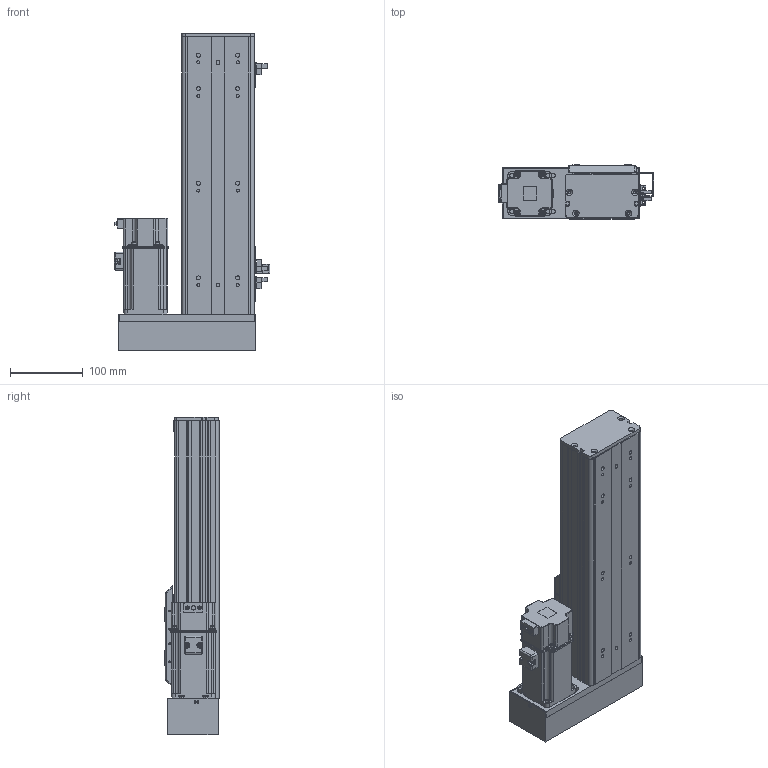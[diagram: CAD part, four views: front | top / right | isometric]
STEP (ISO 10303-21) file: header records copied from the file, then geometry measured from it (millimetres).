
FILE_DESCRIPTION (( 'STEP AP203' ), '1' );
FILE_NAME ('BOSW100-200-1610-1P-RM-M400W-O-S3（方程式2016）.step', '2020-10-10T07:15:20', ( '' ), ( '' ), 'SwSTEP 2.0', 'SolidWorks 2016', '' );
FILE_SCHEMA (( 'CONFIG_CONTROL_DESIGN' ));
Length unit declared in the file: millimetre
Products named in the file (14): BOSW&TW-100-1P-賑雄釱欶; BOSW-100-綴裔啣; boS-100-LM&RM-三菱M400W马达板-宽轨; BOSW&TW-100-詩湍揤沭(陔賦凳); BOSW-100-1P-DM-200諦誧芞; 放大器内置U型微型光电传感器PM-L65; BOSW-100-1P-DM-宽轨-钢带-200客户图纸; BOSW&TW-100-俋离覜茼え; BOSW-100-1P-DM-宽轨-侧板-200客户图纸; S400W(SMA-L040); BOSW100-200-1610-1P-RM-M400W-O-S3（方程式2016）; 俋境嫖覜嘐隅啣; AIMS(W)-100-LM&RM-肮祭謫欶; 新结构AIMSW-100-1P-宽&高轨共用-滑动座上组件
Assembly tree (19 placements, depth 2):
  BOSW100-200-1610-1P-RM-M400W-O-S3（方程式2016）
    BOSW-100-1P-DM-200諦誧芞
    BOSW-100-綴裔啣
    新结构AIMSW-100-1P-宽&高轨共用-滑动座上组件
    S400W(SMA-L040)
    BOSW&TW-100-詩湍揤沭(陔賦凳)  x2
    BOSW&TW-100-1P-賑雄釱欶
    BOSW-100-1P-DM-宽轨-侧板-200客户图纸  x2
    BOSW-100-1P-DM-宽轨-钢带-200客户图纸
    AIMS(W)-100-LM&RM-肮祭謫欶
    boS-100-LM&RM-三菱M400W马达板-宽轨
    俋境嫖覜嘐隅啣  x3
    放大器内置U型微型光电传感器PM-L65  x3
    BOSW&TW-100-俋离覜茼え
Bounding box: 213.4 x 75 x 436 mm (x, y, z)
Volume: 1163364 mm3; surface area: 583289.7 mm2
Topology: 19 solids, 20 shells, 2493 faces, 6567 edges, 4187 vertices
Faces by surface type: plane 1237, cylinder 770, bspline 271, cone 167, torus 36, sphere 12
Entity records: 68052 total; most frequent: CARTESIAN_POINT 20512, ORIENTED_EDGE 9674, DIRECTION 9345, EDGE_CURVE 4837, AXIS2_PLACEMENT_3D 3297, VERTEX_POINT 3089, LINE 2751, VECTOR 2751
